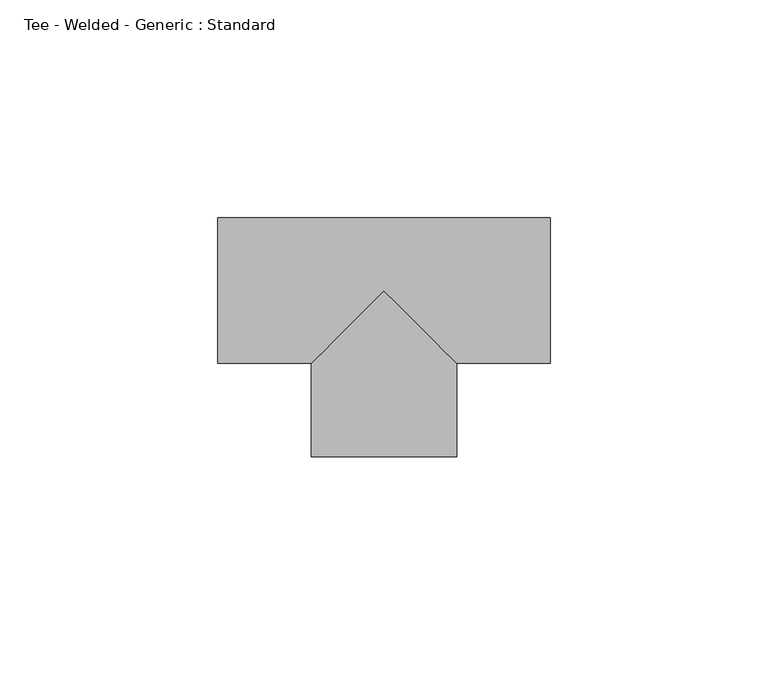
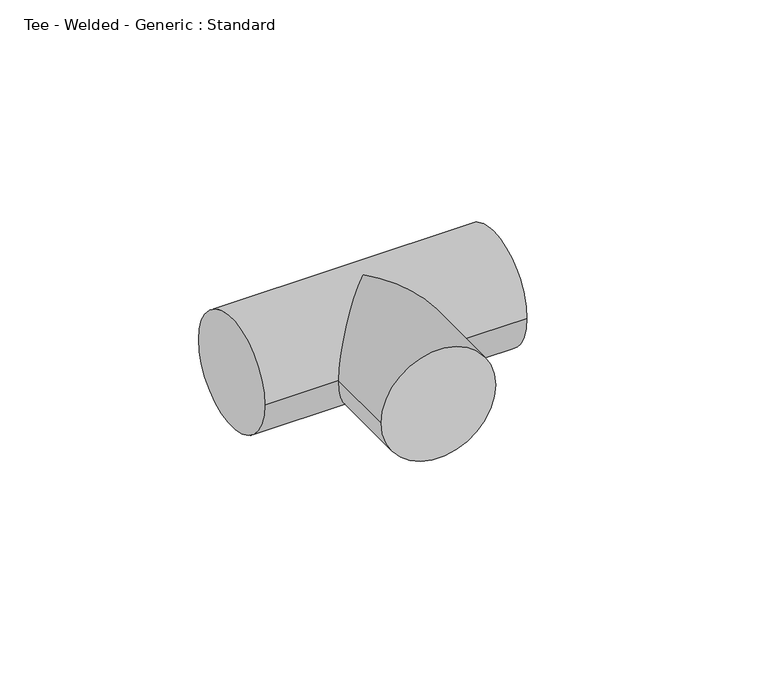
"""IFC4 building model written with IfcOpenShell, lengths in millimetres: pipe fitting geometry, Tee - Welded - Generic : Standard."""

import ifcopenshell
import ifcopenshell.guid

model = None  # the IFC model being written
_history = None  # IfcOwnerHistory: only IFC2X3 demands one
_inside = {}  # id of a spatial element -> (the spatial element, [elements in it])
_under = {}  # id of a project, library or spatial element -> (it, [spatial elements below it])
_declared = {}  # id of a project -> (the project, [libraries it declares])
_typed = {}  # id of a type object -> (the type object, [elements of that type])
_made_of = {}  # id of a material, layer set ... -> (it, [elements and type objects made of it])


def new_model(schema):
    """Start an empty IFC model of exactly this schema.

    Asked for "IFC4X3", IfcOpenShell would pick the latest addendum, in which some entities
    have other attributes; the version numbers below select the first issue.
    IFC2X3 requires an IfcOwnerHistory on every rooted entity: one is made here for all.
    """
    global model, _history
    if schema == "IFC4X3":
        model = ifcopenshell.file(schema_version=(4, 3, 0, 0))
    else:
        model = ifcopenshell.file(schema=schema)
    _inside.clear()
    _under.clear()
    _declared.clear()
    _typed.clear()
    _made_of.clear()
    _history = None
    if model.schema == "IFC2X3":
        org = make("IfcOrganization", Name="unknown")
        user = make(
            "IfcPersonAndOrganization",
            ThePerson=make("IfcPerson", FamilyName="unknown"),
            TheOrganization=org,
        )
        app = make(
            "IfcApplication",
            ApplicationDeveloper=org,
            Version="unknown",
            ApplicationFullName="unknown",
            ApplicationIdentifier="unknown",
        )
        _history = make(
            "IfcOwnerHistory",
            OwningUser=user,
            OwningApplication=app,
            ChangeAction="ADDED",
            CreationDate=0,
        )
    return model


def make(cls, **values):
    """One entity of the class cls with the attributes given. An attribute that is None is left unset."""
    return model.create_entity(
        cls, **{name: value for name, value in values.items() if value is not None}
    )


def rooted(cls, **values):
    """An entity with a GlobalId (a new one), such as an element, a storey or a relation."""
    return make(cls, GlobalId=ifcopenshell.guid.new(), OwnerHistory=_history, **values)


def si_unit(unit_type, name, prefix=None):
    """IfcSIUnit, for example si_unit("LENGTHUNIT", "METRE", prefix="MILLI")."""
    return make("IfcSIUnit", UnitType=unit_type, Prefix=prefix, Name=name)


def assignment(units):
    """IfcUnitAssignment: the units of a project."""
    return None if units is None else make("IfcUnitAssignment", Units=units)


def point(xyz):
    """IfcCartesianPoint."""
    return None if xyz is None else make("IfcCartesianPoint", Coordinates=xyz)


def direction(xyz):
    """IfcDirection."""
    return None if xyz is None else make("IfcDirection", DirectionRatios=xyz)


def frame(location, z_axis=None, x_axis=None):
    """IfcAxis2Placement3D, a coordinate frame: its origin and axes. An axis left out is left unset."""
    return make(
        "IfcAxis2Placement3D",
        Location=point(location),
        Axis=direction(z_axis),
        RefDirection=direction(x_axis),
    )


def origin():
    """The frame at (0, 0, 0) with its axes left unset."""
    return frame((0.0, 0.0, 0.0))


def place(relative_to, where):
    """IfcLocalPlacement: puts the frame where relative to a parent placement (None: the world)."""
    return make(
        "IfcLocalPlacement", PlacementRelTo=relative_to, RelativePlacement=where
    )


def context(
    kind, dimensions, precision=None, world=None, true_north=None, identifier=None
):
    """IfcGeometricRepresentationContext, for example the 3D "Model" context."""
    return make(
        "IfcGeometricRepresentationContext",
        ContextIdentifier=identifier,
        ContextType=kind,
        CoordinateSpaceDimension=dimensions,
        Precision=precision,
        WorldCoordinateSystem=world,
        TrueNorth=true_north,
    )


def project(units=None, contexts=None):
    """IfcProject with its units and contexts."""
    return rooted(
        "IfcProject",
        Name="project",
        RepresentationContexts=contexts,
        UnitsInContext=assignment(units),
    )


def spatial(cls, under=None, at=None, **own):
    """A site, building, storey or space (cls), placed at a placement, below another one or the project."""
    s = rooted(cls, ObjectPlacement=at, **own)
    if under is not None:
        _under.setdefault(under.id(), (under, []))[1].append(s)
    return s


def circle_curve(where, radius):
    """IfcCircle in the frame where."""
    return make("IfcCircle", Position=where, Radius=radius)


def ellipse_curve(where, semi_axis1, semi_axis2):
    """IfcEllipse in the frame where."""
    return make(
        "IfcEllipse", Position=where, SemiAxis1=semi_axis1, SemiAxis2=semi_axis2
    )


def shape(context_of_items, identifier, shape_type, items):
    """IfcShapeRepresentation: the items that make up one representation, for example the "Body"."""
    return make(
        "IfcShapeRepresentation",
        ContextOfItems=context_of_items,
        RepresentationIdentifier=identifier,
        RepresentationType=shape_type,
        Items=items,
    )


def source(mapping_origin, context_of_items, identifier, shape_type, items):
    """IfcRepresentationMap: a shape defined once, which mapped items show again and again."""
    return make(
        "IfcRepresentationMap",
        MappingOrigin=mapping_origin,
        MappedRepresentation=shape(context_of_items, identifier, shape_type, items),
    )


def transform(
    local_origin,
    x_axis=None,
    y_axis=None,
    z_axis=None,
    scale=None,
    scale2=None,
    scale3=None,
    uniform=True,
):
    """IfcCartesianTransformationOperator3D, or its non-uniform kind. x_axis, y_axis, z_axis: its Axis1, 2, 3."""
    if uniform:
        return make(
            "IfcCartesianTransformationOperator3D",
            Axis1=direction(x_axis),
            Axis2=direction(y_axis),
            LocalOrigin=point(local_origin),
            Scale=scale,
            Axis3=direction(z_axis),
        )
    return make(
        "IfcCartesianTransformationOperator3DnonUniform",
        Axis1=direction(x_axis),
        Axis2=direction(y_axis),
        LocalOrigin=point(local_origin),
        Scale=scale,
        Axis3=direction(z_axis),
        Scale2=scale2,
        Scale3=scale3,
    )


def mapped(mapping_source, mapping_target):
    """IfcMappedItem: shows the shape of a source again, moved by a transform."""
    return make(
        "IfcMappedItem", MappingSource=mapping_source, MappingTarget=mapping_target
    )


def made_of(thing, what):
    """Note that an element or type object is made of a material, layer set ...; save() writes the relation."""
    if what is not None:
        _made_of.setdefault(what.id(), (what, []))[1].append(thing)
    return thing


def element(
    cls,
    number,
    at=None,
    inside=None,
    cuts=None,
    type_object=None,
    material=None,
    context=None,
    identifier="Body",
    shape_type=None,
    held_by="IfcProductDefinitionShape",
    body=None,
    shapes=None,
    **own,
):
    """One element of the class cls, such as IfcWall. Its Tag is "e" and its number.

    at: its placement. inside: the storey or other place that contains it. cuts: it is an
    opening in that element (IfcRelVoidsElement). A single representation is given by context,
    identifier, shape_type and body (its items); several are given by shapes. held_by: the class
    of the entity that holds the representations. save() writes the other relations.
    """
    e = rooted(cls, Tag="e%d" % number, ObjectPlacement=at, **own)
    if body is not None:
        shapes = [shape(context, identifier, shape_type, body)]
    if shapes is not None:
        e.Representation = make(held_by, Representations=shapes)
    if inside is not None:
        _inside.setdefault(inside.id(), (inside, []))[1].append(e)
    if cuts is not None:
        rooted(
            "IfcRelVoidsElement", RelatingBuildingElement=cuts, RelatedOpeningElement=e
        )
    if type_object is not None:
        _typed.setdefault(type_object.id(), (type_object, []))[1].append(e)
    return made_of(e, material)


def aggregate(whole, parts):
    """IfcRelAggregates: a whole, such as a stair, and the parts it consists of."""
    return rooted("IfcRelAggregates", RelatingObject=whole, RelatedObjects=parts)


def save(model, path):
    """Write the relations noted so far, then the file.

    IfcRelAggregates (storeys below a building ...), IfcRelContainedInSpatialStructure (elements
    in a storey), IfcRelDefinesByType, IfcRelAssociatesMaterial and IfcRelDeclares: one each for
    every whole, place, type object, material and project.
    """
    for whole, parts in _under.values():
        aggregate(whole, parts)
    for where, things in _inside.values():
        rooted(
            "IfcRelContainedInSpatialStructure",
            RelatedElements=things,
            RelatingStructure=where,
        )
    for kind, things in _typed.values():
        rooted("IfcRelDefinesByType", RelatedObjects=things, RelatingType=kind)
    for what, things in _made_of.values():
        rooted("IfcRelAssociatesMaterial", RelatedObjects=things, RelatingMaterial=what)
    for by, libraries in _declared.values():
        rooted("IfcRelDeclares", RelatingContext=by, RelatedDefinitions=libraries)
    model.write(path)


def plane_surface(at):
    """IfcPlane: the flat surface through the origin of the frame at, square to its z axis."""
    return make("IfcPlane", Position=at)


def cylinder_surface(at, radius):
    """IfcCylindricalSurface: all points at the distance radius from the z axis of the frame at."""
    return make("IfcCylindricalSurface", Position=at, Radius=radius)


def advanced_brep(points, edges, surfaces, faces):
    """IfcAdvancedBrep: a solid bounded by faces that lie on surfaces and meet in shared edges.

    An edge is (start, end): straight between two places in points (the first is 0);
    or (start, end, curve); or (start, end, curve, False) where it runs against its curve.
    A face is (place in surfaces, loops), or (place, loops, False) where it looks against
    its surface's normal. A loop lists edges by number (the first is 1), with a minus sign
    where the edge is run from its end to its start. The first loop is the outer one.
    """
    corners = [point(p) for p in points]
    vertices = [make("IfcVertexPoint", VertexGeometry=c) for c in corners]
    made = []
    for start, end, *more in edges:
        made.append(
            make(
                "IfcEdgeCurve",
                EdgeStart=vertices[start],
                EdgeEnd=vertices[end],
                EdgeGeometry=more[0] if more else make("IfcPolyline", Points=[corners[start], corners[end]]),
                SameSense=more[1] if len(more) > 1 else True,
            )
        )
    hull = []
    for where, loops, *sense in faces:
        bounds = []
        for j, loop in enumerate(loops):
            ring = [make("IfcOrientedEdge", EdgeElement=made[abs(k) - 1], Orientation=k > 0) for k in loop]
            bounds.append(
                make(
                    "IfcFaceOuterBound" if j == 0 else "IfcFaceBound",
                    Bound=make("IfcEdgeLoop", EdgeList=ring),
                    Orientation=True,
                )
            )
        hull.append(make("IfcAdvancedFace", Bounds=bounds, FaceSurface=surfaces[where], SameSense=sense[0] if sense else True))
    return make("IfcAdvancedBrep", Outer=make("IfcClosedShell", CfsFaces=hull))


def tee_welded_generic_standard_2bb85b27(model_context):
    return source(origin(), model_context, "Body", "AdvancedBrep", [
        advanced_brep(
        [(-38.1, -16.66875, 0.0), (-38.1, 16.66875, 0.0), (38.1, -16.66875, 0.0), (38.1, 16.66875, 0.0), (-16.6687381, -16.66875, 0.0), (0.0, 0.0, 16.66875), (16.6687619, -16.66875, 0.0), (0.0, 0.0, -16.66875), (-16.6687228, -38.1000119, 0.0), (16.6687772, -38.0999881, 0.0)],
        [
            (0, 1, circle_curve(frame((-38.1, 0.0, 0.0), z_axis=(-1.0, 0.0, 0.0), x_axis=(0.0, 1.0, 0.0)), 16.66875)),
            (1, 0, circle_curve(frame((-38.1, 0.0, 0.0), z_axis=(-1.0, 0.0, 0.0), x_axis=(0.0, 1.0, 0.0)), 16.66875)),
            (2, 3, circle_curve(frame((38.1, 0.0, 0.0), z_axis=(1.0, 0.0, 0.0), x_axis=(0.0, 1.0, 0.0)), 16.66875)),
            (3, 2, circle_curve(frame((38.1, 0.0, 0.0), z_axis=(1.0, 0.0, 0.0), x_axis=(0.0, 1.0, 0.0)), 16.66875)),
            (0, 4),
            (4, 5, ellipse_curve(frame((0.0, 0.0, 0.0), z_axis=(-0.7071070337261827, 0.7071065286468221, 0.0), x_axis=(-0.7071065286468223, -0.7071070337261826, 0.0)), 23.5731639, 16.66875)),
            (5, 6, ellipse_curve(frame((0.0, 0.0, 0.0), z_axis=(0.707106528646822, 0.7071070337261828, 0.0), x_axis=(-0.7071070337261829, 0.7071065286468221, 0.0)), 23.5731807, 16.66875)),
            (6, 2),
            (3, 1),
            (6, 7, ellipse_curve(frame((0.0, 0.0, 0.0), z_axis=(0.707106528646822, 0.7071070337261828, 0.0), x_axis=(-0.7071070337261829, 0.7071065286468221, 0.0)), 23.5731807, 16.66875)),
            (7, 4, ellipse_curve(frame((0.0, 0.0, 0.0), z_axis=(-0.7071070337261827, 0.7071065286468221, 0.0), x_axis=(-0.7071065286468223, -0.7071070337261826, 0.0)), 23.5731639, 16.66875)),
            (8, 9, circle_curve(frame((2.72e-05, -38.1, 0.0), z_axis=(7.142900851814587e-07, -0.999999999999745, 0.0), x_axis=(0.999999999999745, 7.142900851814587e-07, 0.0)), 16.66875)),
            (9, 8, circle_curve(frame((2.72e-05, -38.1, 0.0), z_axis=(7.142900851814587e-07, -0.999999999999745, 0.0), x_axis=(0.999999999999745, 7.142900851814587e-07, 0.0)), 16.66875)),
            (9, 6),
            (4, 8),
        ],
        [
            plane_surface(frame((-38.1, 0.0, 0.0), z_axis=(-1.0, 0.0, 0.0), x_axis=(0.0, 0.0, 1.0))),
            plane_surface(frame((38.1, 0.0, 0.0), z_axis=(1.0, 0.0, 0.0), x_axis=(0.0, 0.0, 1.0))),
            cylinder_surface(frame((-38.1, 0.0, 0.0), z_axis=(-1.0, 0.0, 0.0), x_axis=(0.0, 1.0, 0.0)), 16.66875),
            plane_surface(frame((2.72e-05, -38.1, 0.0), z_axis=(7.142900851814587e-07, -0.999999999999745, 0.0), x_axis=(0.0, 0.0, 1.0))),
            cylinder_surface(frame((0.0, 0.0, 0.0), z_axis=(-7.142900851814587e-07, 0.999999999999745, 0.0), x_axis=(0.999999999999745, 7.142900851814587e-07, 0.0)), 16.66875),
        ],
        [
            (0, [[1, 2]]),
            (1, [[3, 4]]),
            (2, [[-1, 5, 6, 7, 8, -4, 9]]),
            (2, [[-2, -9, -3, -8, 10, 11, -5]]),
            (3, [[12, 13]]),
            (4, [[-13, 14, -7, -6, 15]]),
            (4, [[-12, -15, -11, -10, -14]]),
        ],
    ),
    ])


if __name__ == "__main__":
    model = new_model("IFC4")
    model_context = context("Model", 3, world=origin())
    ifc_project = project(units=[si_unit("LENGTHUNIT", "METRE", prefix="MILLI")], contexts=[model_context])
    site = spatial("IfcSite", under=ifc_project)
    building = spatial("IfcBuilding", under=site)
    placement = place(None, origin())
    tee_welded_generic_standard_shape = tee_welded_generic_standard_2bb85b27(model_context)
    element("IfcPipeFitting", 1, ObjectType="Tee - Welded - Generic : Standard", at=placement, inside=building, context=model_context, shape_type="MappedRepresentation", body=[
        mapped(tee_welded_generic_standard_shape, transform((0.0, 0.0, 0.0), x_axis=(1.0, 0.0, 0.0), y_axis=(0.0, 1.0, 0.0), z_axis=(0.0, 0.0, 1.0))),
    ])
    save(model, "model.ifc")
